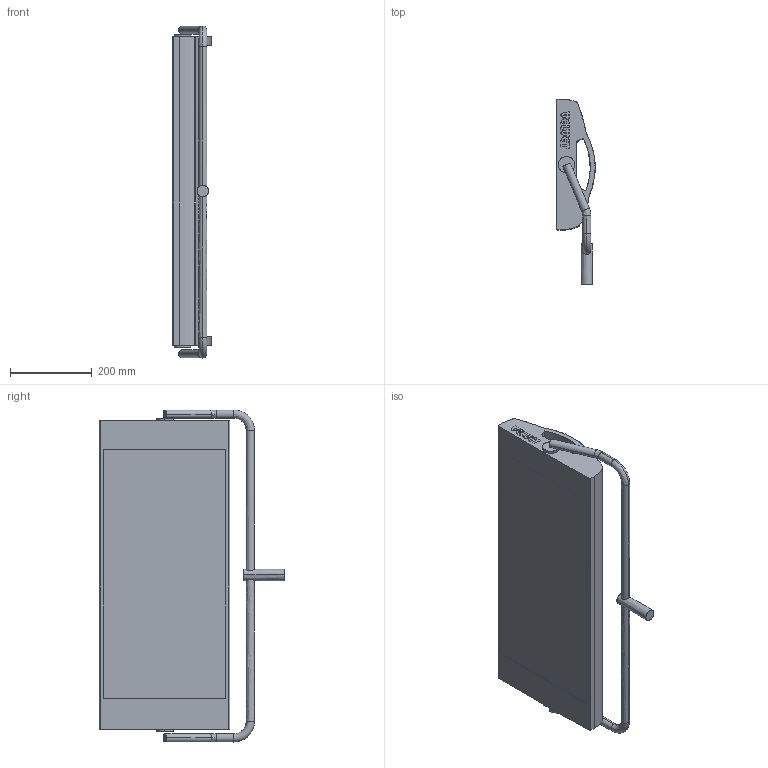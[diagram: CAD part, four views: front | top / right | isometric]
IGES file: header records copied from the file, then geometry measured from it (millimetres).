
Start section: SolidWorks IGES file using analytic representation for surfaces
Global section: file name: C:\Users\Eddy\Desktop\EVO2.IGS; native system: SolidWorks 2023; preprocessor: SolidWorks 2023; author: Eddy; date: 240714.160235; units: millimetre
Bounding box: 93.5 x 452.35 x 810 mm (x, y, z)
Surface area: 720336.1 mm2 (no closed solid volume)
Topology: 0 solids, 0 shells, 297 faces, 4148 edges, 4148 vertices
Faces by surface type: bspline 258, revolution 39
